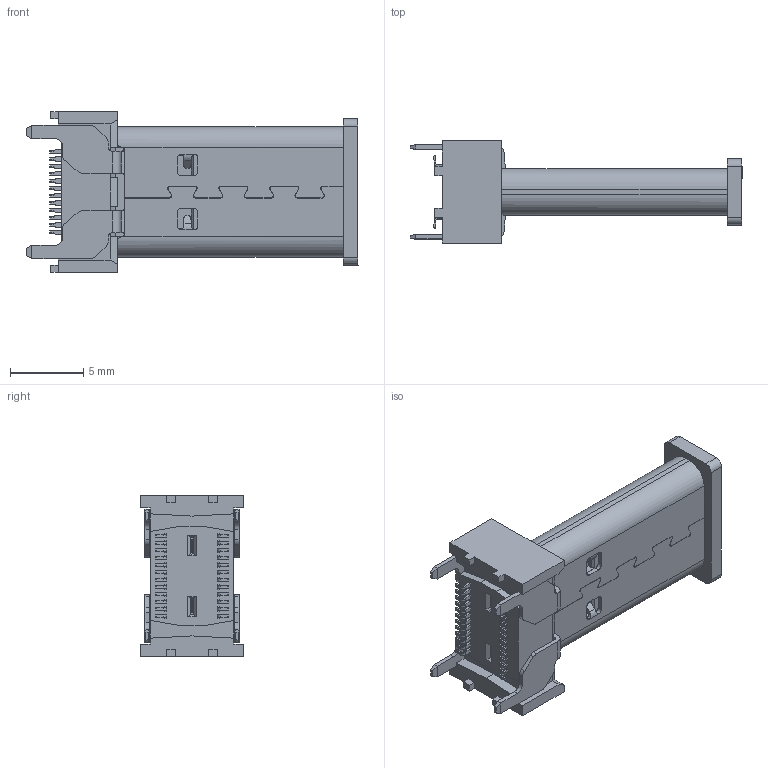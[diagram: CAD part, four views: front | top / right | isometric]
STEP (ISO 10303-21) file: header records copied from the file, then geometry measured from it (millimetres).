
FILE_DESCRIPTION((''),'2;1');
FILE_NAME('TYPE-C-24PIN-H17_5-0927_ASM','2024-11-13T10:09:25',('HK10285'),('FoxCAVITY'),'CREO PARAMETRIC BY PTC INC, 2021404','CREO PARAMETRIC BY PTC INC, 2021404','');
FILE_SCHEMA(('AUTOMOTIVE_DESIGN { 1 0 10303 214 1 1 1 1 }'));
Products named in the file (4): TYPEC_H15_1_1_1_1_1_1_1_1_1_1_2; COVER__22_1_1_1_1_1_1_1_1_1_1_2; _15H00_ASM_-0224_ASM_1_ASM_1__2_ASM; TYPE-C-24PIN-H17_5-0927_ASM
Assembly tree (3 placements, depth 3):
  TYPE-C-24PIN-H17_5-0927_ASM
    _15H00_ASM_-0224_ASM_1_ASM_1__2_ASM
      TYPEC_H15_1_1_1_1_1_1_1_1_1_1_2
      COVER__22_1_1_1_1_1_1_1_1_1_1_2
Bounding box: 22.7 x 7 x 11 mm (x, y, z)
Volume: 599.3 mm3; surface area: 1719.4 mm2
Topology: 2 solids, 18 shells, 1517 faces, 4258 edges, 2794 vertices
Faces by surface type: plane 1116, cylinder 231, extrusion 124, cone 26, bspline 20
Entity records: 55513 total; most frequent: CARTESIAN_POINT 11794, ORIENTED_EDGE 8516, DIRECTION 7356, EDGE_CURVE 4258, VECTOR 3504, LINE 3380, VERTEX_POINT 2794, AXIS2_PLACEMENT_3D 1926
